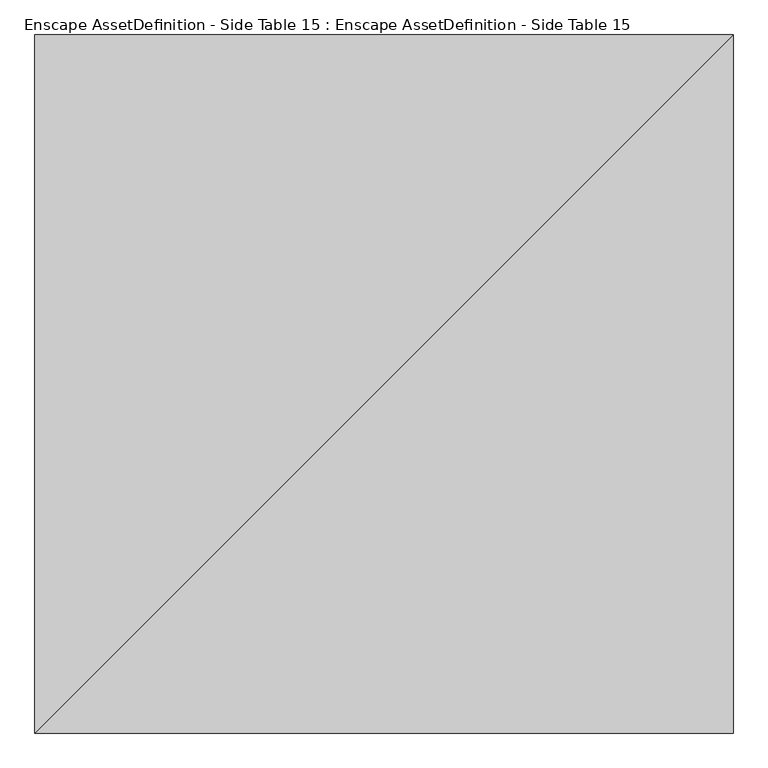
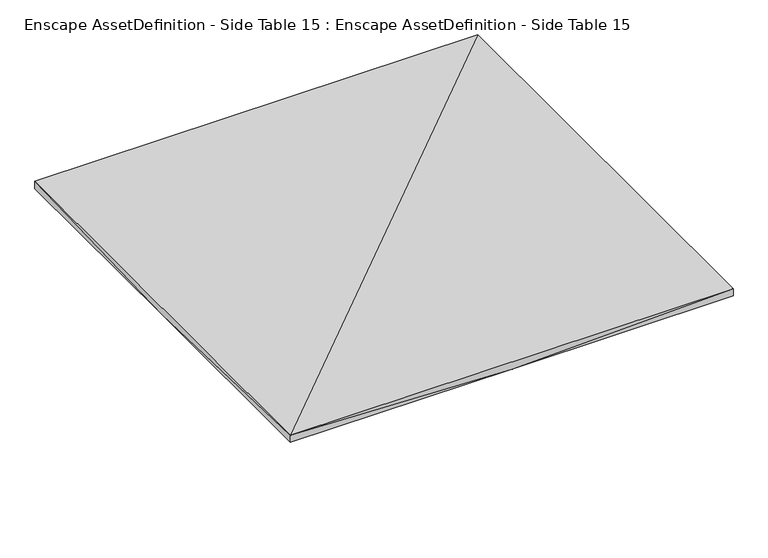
"""IFC4 building model written with IfcOpenShell, lengths in millimetres: geographic element geometry, Enscape AssetDefinition - Side Table 15 : Enscape AssetDefinition - Side Table 15."""

from ifc_helpers import new_model, si_unit, origin, place, context, project, spatial, faceted_brep, source, transform, mapped, element, save


def enscape_assetdefinition_side_table_15_enscape_5be1d814(model_context):
    return source(origin(), model_context, "Body", "Brep", [
        faceted_brep([(-578.2510042, 578.2510042, 242.7749932), (-578.2510042, 0.0, 223.3739942), (-578.2510042, -578.2510042, 242.7749932), (-289.1249955, -289.1249955, 0.627), (-578.2510042, -578.2510042, 223.3739942), (-289.1249955, 289.1249955, 0.627), (-578.2510042, 578.2510042, 223.3739942), (0.0, 0.0, 223.3739942), (578.2510042, 578.2510042, 242.7749932), (0.0, 578.2510042, 223.3739942), (289.1249955, 289.1249955, 0.627), (578.2510042, 578.2510042, 223.3739942), (578.2510042, -578.2510042, 242.7749932), (578.2510042, 0.0, 223.3739942), (289.1249955, -289.1249955, 0.627), (578.2510042, -578.2510042, 223.3739942), (0.0, -578.2510042, 223.3739942)], [[[0, 1, 2]], [[3, 4, 1]], [[5, 1, 6]], [[3, 1, 7]], [[5, 7, 1]], [[1, 0, 6]], [[2, 1, 4]], [[0, 8, 9]], [[0, 9, 6]], [[2, 8, 0]], [[5, 6, 9]], [[5, 9, 7]], [[10, 7, 9]], [[10, 9, 11]], [[8, 11, 9]], [[12, 8, 2]], [[8, 12, 13]], [[8, 13, 11]], [[10, 11, 13]], [[10, 13, 7]], [[14, 7, 13]], [[14, 13, 15]], [[12, 15, 13]], [[12, 2, 16]], [[12, 16, 15]], [[14, 15, 16]], [[14, 16, 7]], [[3, 7, 16]], [[3, 16, 4]], [[2, 4, 16]]]),
    ])


if __name__ == "__main__":
    model = new_model("IFC4")
    model_context = context("Model", 3, world=origin())
    ifc_project = project(units=[si_unit("LENGTHUNIT", "METRE", prefix="MILLI")], contexts=[model_context])
    site = spatial("IfcSite", under=ifc_project)
    building = spatial("IfcBuilding", under=site)
    placement = place(None, origin())
    enscape_assetdefinition_side_table_15_enscape_shape = enscape_assetdefinition_side_table_15_enscape_5be1d814(model_context)
    element("IfcGeographicElement", 1, ObjectType="Enscape AssetDefinition - Side Table 15 : Enscape AssetDefinition - Side Table 15", at=placement, inside=building, context=model_context, shape_type="MappedRepresentation", body=[
        mapped(enscape_assetdefinition_side_table_15_enscape_shape, transform((0.0, 0.0, 0.0), x_axis=(1.0, 0.0, 0.0), y_axis=(0.0, 1.0, 0.0), z_axis=(0.0, 0.0, 1.0))),
    ])
    save(model, "model.ifc")
